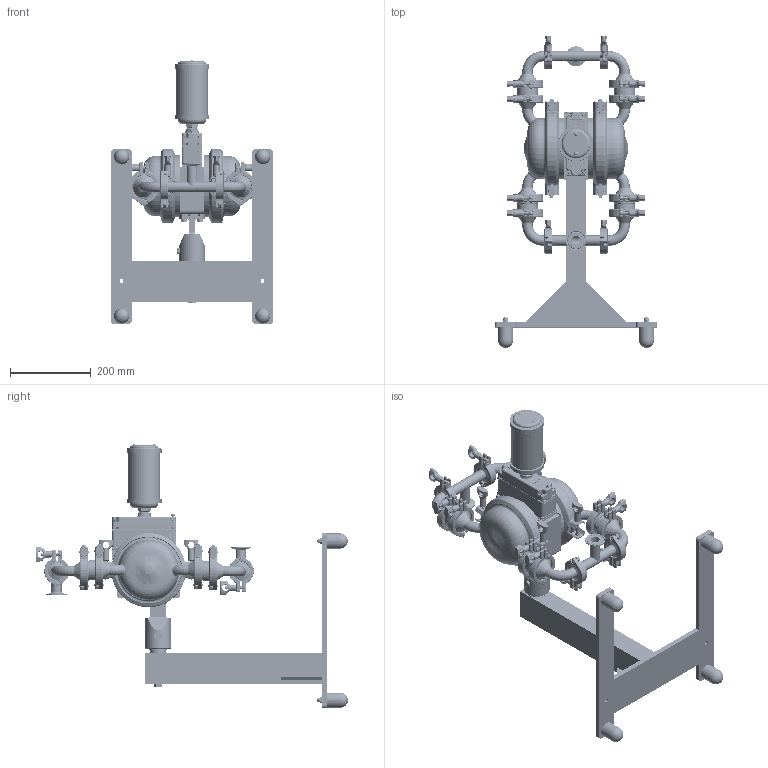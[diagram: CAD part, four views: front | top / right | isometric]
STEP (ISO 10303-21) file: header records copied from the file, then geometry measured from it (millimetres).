
FILE_DESCRIPTION((''),'2;1');
FILE_NAME('PS2_SANIFLO_HS_SWIVEL_SW0002','2019-03-13T',('10013162'),(''),'PRO/ENGINEER BY PARAMETRIC TECHNOLOGY CORPORATION, 2017170','PRO/ENGINEER BY PARAMETRIC TECHNOLOGY CORPORATION, 2017170','');
FILE_SCHEMA(('CONFIG_CONTROL_DESIGN'));
Products named in the file (1): PS2_SANIFLO_HS_SWIVEL_SW0002
Bounding box: 400.05 x 771.54 x 652.19 mm (x, y, z)
Volume: 6671167.2 mm3; surface area: 1616192.3 mm2
Topology: 41 solids, 41 shells, 12414 faces, 31884 edges, 19785 vertices
Faces by surface type: plane 5925, cylinder 2511, torus 1612, bspline 1228, cone 756, sphere 382
Entity records: 664615 total; most frequent: CARTESIAN_POINT 370460, ORIENTED_EDGE 63480, DIRECTION 58717, EDGE_CURVE 31740, AXIS2_PLACEMENT_3D 20190, VERTEX_POINT 19785, VECTOR 18337, LINE 18337
